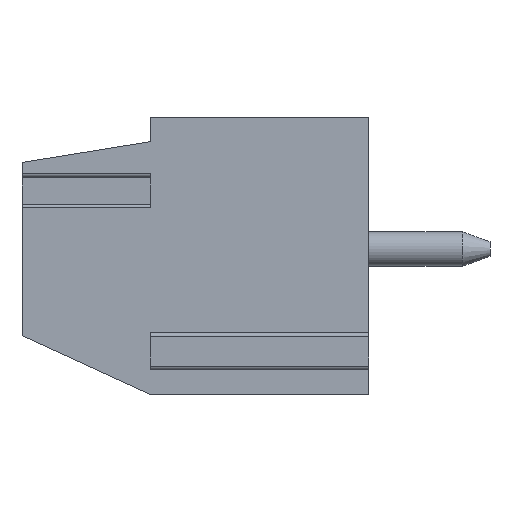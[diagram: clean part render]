
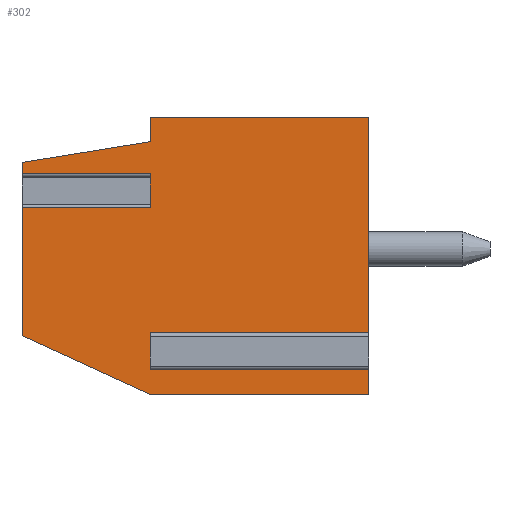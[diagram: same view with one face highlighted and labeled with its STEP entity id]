
A CAD part, left-side view. The second image highlights one B-rep face of the part: STEP entity #302.
In plain terms, the highlighted planar face has unit normal (-1, 0, 0).
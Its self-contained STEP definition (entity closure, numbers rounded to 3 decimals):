
#302 = ADVANCED_FACE( '', ( #620 ), #621, .F. );
#620 = FACE_OUTER_BOUND( '', #930, .T. );
#621 = PLANE( '', #931 );
#930 = EDGE_LOOP( '', ( #1740, #1741, #1742, #1743, #1744, #1745, #1746, #1747, #1748, #1749, #1750, #1751, #1752, #1753, #1754 ) );
#931 = AXIS2_PLACEMENT_3D( '', #1755, #1756, #1757 );
#1740 = ORIENTED_EDGE( '', *, *, #2010, .T. );
#1741 = ORIENTED_EDGE( '', *, *, #1872, .F. );
#1742 = ORIENTED_EDGE( '', *, *, #2046, .F. );
#1743 = ORIENTED_EDGE( '', *, *, #2069, .F. );
#1744 = ORIENTED_EDGE( '', *, *, #2076, .F. );
#1745 = ORIENTED_EDGE( '', *, *, #1797, .F. );
#1746 = ORIENTED_EDGE( '', *, *, #2033, .F. );
#1747 = ORIENTED_EDGE( '', *, *, #1851, .T. );
#1748 = ORIENTED_EDGE( '', *, *, #2075, .F. );
#1749 = ORIENTED_EDGE( '', *, *, #2065, .F. );
#1750 = ORIENTED_EDGE( '', *, *, #1912, .F. );
#1751 = ORIENTED_EDGE( '', *, *, #1821, .F. );
#1752 = ORIENTED_EDGE( '', *, *, #1866, .F. );
#1753 = ORIENTED_EDGE( '', *, *, #2006, .F. );
#1754 = ORIENTED_EDGE( '', *, *, #1825, .F. );
#1755 = CARTESIAN_POINT( '', ( 0., 0., 0. ) );
#1756 = DIRECTION( '', ( 1., 0., 0. ) );
#1757 = DIRECTION( '', ( 0., 0., -1. ) );
#1797 = EDGE_CURVE( '', #2141, #2136, #2143, .T. );
#1821 = EDGE_CURVE( '', #2186, #2187, #2188, .T. );
#1825 = EDGE_CURVE( '', #2192, #2193, #2194, .T. );
#1851 = EDGE_CURVE( '', #2237, #2235, #2238, .T. );
#1866 = EDGE_CURVE( '', #2260, #2186, #2262, .T. );
#1872 = EDGE_CURVE( '', #2270, #2272, #2273, .T. );
#1912 = EDGE_CURVE( '', #2187, #2332, #2333, .T. );
#2006 = EDGE_CURVE( '', #2193, #2260, #2470, .T. );
#2010 = EDGE_CURVE( '', #2192, #2272, #2474, .T. );
#2033 = EDGE_CURVE( '', #2237, #2141, #2503, .T. );
#2046 = EDGE_CURVE( '', #2518, #2270, #2519, .T. );
#2065 = EDGE_CURVE( '', #2332, #2542, #2543, .T. );
#2069 = EDGE_CURVE( '', #2547, #2518, #2548, .T. );
#2075 = EDGE_CURVE( '', #2542, #2235, #2554, .T. );
#2076 = EDGE_CURVE( '', #2136, #2547, #2555, .T. );
#2136 = VERTEX_POINT( '', #2629 );
#2141 = VERTEX_POINT( '', #2636 );
#2143 = LINE( '', #2639, #2640 );
#2186 = VERTEX_POINT( '', #2703 );
#2187 = VERTEX_POINT( '', #2704 );
#2188 = LINE( '', #2705, #2706 );
#2192 = VERTEX_POINT( '', #2712 );
#2193 = VERTEX_POINT( '', #2713 );
#2194 = LINE( '', #2714, #2715 );
#2235 = VERTEX_POINT( '', #2771 );
#2237 = VERTEX_POINT( '', #2774 );
#2238 = LINE( '', #2775, #2776 );
#2260 = VERTEX_POINT( '', #2803 );
#2262 = LINE( '', #2805, #2806 );
#2270 = VERTEX_POINT( '', #2816 );
#2272 = VERTEX_POINT( '', #2819 );
#2273 = LINE( '', #2820, #2821 );
#2332 = VERTEX_POINT( '', #2903 );
#2333 = LINE( '', #2904, #2905 );
#2470 = LINE( '', #3085, #3086 );
#2474 = LINE( '', #3091, #3092 );
#2503 = LINE( '', #3130, #3131 );
#2518 = VERTEX_POINT( '', #3152 );
#2519 = LINE( '', #3153, #3154 );
#2542 = VERTEX_POINT( '', #3188 );
#2543 = LINE( '', #3189, #3190 );
#2547 = VERTEX_POINT( '', #3196 );
#2548 = LINE( '', #3197, #3198 );
#2554 = LINE( '', #3208, #3209 );
#2555 = LINE( '', #3210, #3211 );
#2629 = CARTESIAN_POINT( '', ( 0., 0., 0.935 ) );
#2636 = CARTESIAN_POINT( '', ( 0., 6.3, 0.935 ) );
#2639 = CARTESIAN_POINT( '', ( 0., 6.3, 0.935 ) );
#2640 = VECTOR( '', #3260, 1000. );
#2703 = CARTESIAN_POINT( '', ( 0., 10., 6.7 ) );
#2704 = CARTESIAN_POINT( '', ( 0., 6.3, 7.3 ) );
#2705 = CARTESIAN_POINT( '', ( 0., 10., 6.7 ) );
#2706 = VECTOR( '', #3281, 1000. );
#2712 = CARTESIAN_POINT( '', ( 0., 6.3, 5.397 ) );
#2713 = CARTESIAN_POINT( '', ( 0., 6.3, 6.373 ) );
#2714 = CARTESIAN_POINT( '', ( 0., 6.3, 0. ) );
#2715 = VECTOR( '', #3284, 1000. );
#2771 = CARTESIAN_POINT( '', ( 0., 0., 1.565 ) );
#2774 = CARTESIAN_POINT( '', ( 0., 6.3, 1.565 ) );
#2775 = CARTESIAN_POINT( '', ( 0., 6.3, 1.565 ) );
#2776 = VECTOR( '', #3313, 1000. );
#2803 = CARTESIAN_POINT( '', ( 0., 10., 6.373 ) );
#2805 = CARTESIAN_POINT( '', ( 0., 10., 1.7 ) );
#2806 = VECTOR( '', #3337, 1000. );
#2816 = CARTESIAN_POINT( '', ( 0., 10., 1.7 ) );
#2819 = CARTESIAN_POINT( '', ( 0., 10., 5.397 ) );
#2820 = CARTESIAN_POINT( '', ( 0., 10., 1.7 ) );
#2821 = VECTOR( '', #3347, 1000. );
#2903 = CARTESIAN_POINT( '', ( 0., 6.3, 8. ) );
#2904 = CARTESIAN_POINT( '', ( 0., 6.3, 7.3 ) );
#2905 = VECTOR( '', #3389, 1000. );
#3085 = CARTESIAN_POINT( '', ( 0., 6.3, 6.373 ) );
#3086 = VECTOR( '', #3496, 1000. );
#3091 = CARTESIAN_POINT( '', ( 0., 6.3, 5.397 ) );
#3092 = VECTOR( '', #3498, 1000. );
#3130 = CARTESIAN_POINT( '', ( 0., 6.3, 1.565 ) );
#3131 = VECTOR( '', #3517, 1000. );
#3152 = CARTESIAN_POINT( '', ( 0., 6.3, 0. ) );
#3153 = CARTESIAN_POINT( '', ( 0., 6.3, 0. ) );
#3154 = VECTOR( '', #3524, 1000. );
#3188 = CARTESIAN_POINT( '', ( 0., 0., 8. ) );
#3189 = CARTESIAN_POINT( '', ( 0., 6.3, 8. ) );
#3190 = VECTOR( '', #3539, 1000. );
#3196 = CARTESIAN_POINT( '', ( 0., 0., 0. ) );
#3197 = CARTESIAN_POINT( '', ( 0., 0., 0. ) );
#3198 = VECTOR( '', #3542, 1000. );
#3208 = CARTESIAN_POINT( '', ( 0., 0., 8. ) );
#3209 = VECTOR( '', #3547, 1000. );
#3210 = CARTESIAN_POINT( '', ( 0., 0., 8. ) );
#3211 = VECTOR( '', #3548, 1000. );
#3260 = DIRECTION( '', ( 0., -1., 0. ) );
#3281 = DIRECTION( '', ( 0., -0.987, 0.16 ) );
#3284 = DIRECTION( '', ( 0., 0., 1. ) );
#3313 = DIRECTION( '', ( 0., -1., 0. ) );
#3337 = DIRECTION( '', ( 0., 0., 1. ) );
#3347 = DIRECTION( '', ( 0., 0., 1. ) );
#3389 = DIRECTION( '', ( 0., 0., 1. ) );
#3496 = DIRECTION( '', ( 0., 1., 0. ) );
#3498 = DIRECTION( '', ( 0., 1., 0. ) );
#3517 = DIRECTION( '', ( 0., 0., -1. ) );
#3524 = DIRECTION( '', ( 0., 0.909, 0.418 ) );
#3539 = DIRECTION( '', ( 0., -1., 0. ) );
#3542 = DIRECTION( '', ( 0., 1., 0. ) );
#3547 = DIRECTION( '', ( 0., 0., -1. ) );
#3548 = DIRECTION( '', ( 0., 0., -1. ) );
